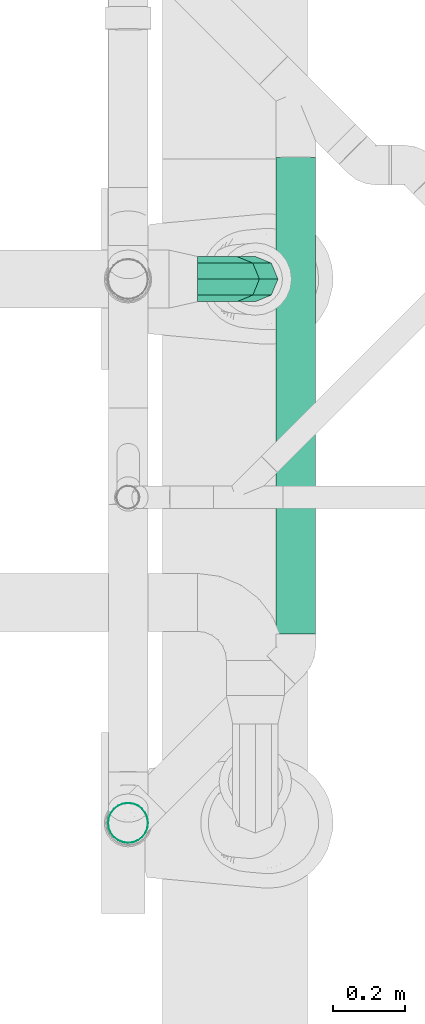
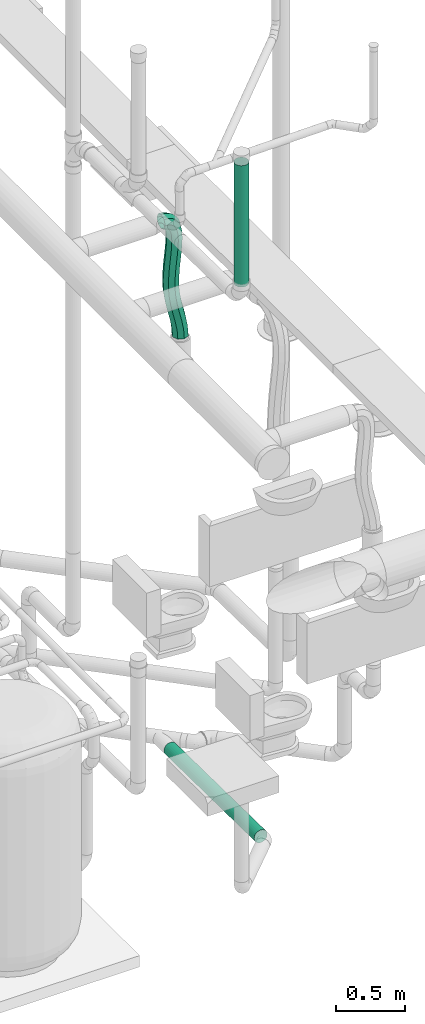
# One storey, part 218 of 374: 3 flow segments.
"""IFC2X3 building model written with IfcOpenShell, lengths in metres."""

from ifc_helpers import new_model, si_unit, direction, origin, place, context, subcontext, project, spatial, open_shell, surface_model, source, transform, mapped, element, save


model = new_model("IFC2X3")

# Units and contexts
model_context = context("Model", 3, precision=1e-05, world=origin(), true_north=direction((-0.4480736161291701, 0.8939966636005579)))
body_context = subcontext(model_context, "Body", "Model", "MODEL_VIEW")
ifc_project = project(units=[si_unit("LENGTHUNIT", "METRE"), si_unit("AREAUNIT", "SQUARE_METRE"), si_unit("VOLUMEUNIT", "CUBIC_METRE"), si_unit("PLANEANGLEUNIT", "RADIAN"), si_unit("THERMODYNAMICTEMPERATUREUNIT", "KELVIN"), si_unit("MASSUNIT", "GRAM", prefix="KILO"), si_unit("TIMEUNIT", "SECOND")], contexts=[model_context])

# Site, building, storey
site_placement = place(None, origin())
site = spatial("IfcSite", under=ifc_project, at=site_placement, Name="Site 1", CompositionType="ELEMENT")
building_placement = place(site_placement, origin())
building = spatial("IfcBuilding", under=site, at=building_placement, Name="Undefined", CompositionType="ELEMENT")
storey_placement = place(building_placement, origin())
storey = spatial("IfcBuildingStorey", under=building, at=storey_placement, Name="Rez de chauss\x8ee", CompositionType="ELEMENT", Elevation=0.0)

# Flow segments
shared_shape_1 = source(origin(), body_context, "Body", "SurfaceModel", [
    surface_model("IfcFaceBasedSurfaceModel", [(8.99929782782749e-06, 0.014357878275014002, 0.0), (0.0, 0.0, 0.0), (1.3164824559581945, -3.552713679e-15, 0.0), (1.3164914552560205, 0.01435787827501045, -7.105427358e-15), (-8.386010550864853e-06, -0.013868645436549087, -0.003716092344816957), (1.3164740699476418, -0.013868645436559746, -0.003716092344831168), (-1.5587241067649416e-05, -0.026302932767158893, -0.010895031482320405), (1.316466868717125, -0.026302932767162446, -0.01089503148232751), (-2.111293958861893e-05, -0.036455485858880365, -0.021047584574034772), (1.316461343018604, -0.036455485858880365, -0.021047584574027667), (-2.458653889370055e-05, -0.04363442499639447, -0.03348187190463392), (1.316457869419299, -0.04363442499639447, -0.033481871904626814), (-2.5771318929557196e-05, -0.0473505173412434, -0.047350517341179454), (1.3164566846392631, -0.0473505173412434, -0.047350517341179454), (-2.458653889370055e-05, -0.047350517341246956, -0.06170839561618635), (1.316457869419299, -0.047350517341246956, -0.06170839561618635), (-2.1112939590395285e-05, -0.04363442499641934, -0.07557704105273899), (1.316461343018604, -0.04363442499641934, -0.07557704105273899), (-1.5587241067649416e-05, -0.036455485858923, -0.08801132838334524), (1.316466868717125, -0.036455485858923, -0.08801132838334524), (-8.38601055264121e-06, -0.02630293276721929, -0.09816388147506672), (1.31647406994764, -0.02630293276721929, -0.09816388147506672), (0.0, -0.013868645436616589, -0.10534282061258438), (1.3164824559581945, -0.013868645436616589, -0.10534282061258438), (8.99929782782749e-06, -7.1054273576e-14, -0.10905891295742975), (1.3164914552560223, -7.1054273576e-14, -0.10905891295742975), (1.7998595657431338e-05, 0.0143578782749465, -0.10905891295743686), (1.3165004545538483, 0.014357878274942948, -0.10905891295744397), (2.6384606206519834e-05, 0.028226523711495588, -0.10534282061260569), (1.3165088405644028, 0.028226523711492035, -0.1053428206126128), (3.358583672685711e-05, 0.04066081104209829, -0.09816388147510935), (1.3165160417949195, 0.04066081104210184, -0.09816388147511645), (3.911153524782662e-05, 0.05081336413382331, -0.08801132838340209), (1.3165215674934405, 0.05081336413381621, -0.08801132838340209), (4.2585134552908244e-05, 0.05799230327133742, -0.07557704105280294), (1.3165250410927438, 0.05799230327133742, -0.07557704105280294), (4.3769914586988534e-05, 0.06170839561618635, -0.061708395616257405), (1.3165262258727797, 0.0617083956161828, -0.061708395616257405), (4.2585134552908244e-05, 0.061708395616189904, -0.0473505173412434), (1.3165250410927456, 0.06170839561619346, -0.0473505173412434), (3.9111535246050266e-05, 0.05799230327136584, -0.03348187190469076), (1.3165215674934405, 0.05799230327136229, -0.03348187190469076), (3.358583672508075e-05, 0.050813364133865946, -0.02104758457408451), (1.3165160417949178, 0.050813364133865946, -0.02104758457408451), (2.638460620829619e-05, 0.04066081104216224, -0.010895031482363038), (1.3165088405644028, 0.04066081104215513, -0.010895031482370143), (1.7998595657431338e-05, 0.028226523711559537, -0.0037160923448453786), (1.3165004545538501, 0.028226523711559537, -0.0037160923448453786)], [open_shell([[[0, 1, 2, 3]], [[1, 4, 5, 2]], [[4, 6, 7, 5]], [[6, 8, 9, 7]], [[8, 10, 11, 9]], [[10, 12, 13, 11]], [[12, 14, 15, 13]], [[14, 16, 17, 15]], [[16, 18, 19, 17]], [[18, 20, 21, 19]], [[20, 22, 23, 21]], [[22, 24, 25, 23]], [[24, 26, 27, 25]], [[26, 28, 29, 27]], [[28, 30, 31, 29]], [[30, 32, 33, 31]], [[32, 34, 35, 33]], [[34, 36, 37, 35]], [[36, 38, 39, 37]], [[38, 40, 41, 39]], [[40, 42, 43, 41]], [[42, 44, 45, 43]], [[44, 46, 47, 45]], [[46, 0, 3, 47]]])]),
])
flow_segment_1_placement = place(storey_placement, origin())
element("IfcFlowSegment", 1, at=flow_segment_1_placement, inside=storey, Name="PE-HD tuyau", ObjectType="PE-HD tuyau", context=body_context, shape_type="MappedRepresentation", body=[
    mapped(shared_shape_1, transform((57.581809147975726, 13.148840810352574, -1.1511285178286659), x_axis=(1.6417485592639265e-05, -0.9998919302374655, 0.014701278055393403), y_axis=(0.4661836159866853, -0.01299839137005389, -0.8845924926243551), z_axis=(0.8846879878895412, 0.006868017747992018, 0.46613302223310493))),
])
shared_shape_2 = source(origin(), body_context, "Body", "SurfaceModel", [
    surface_model("IfcFaceBasedSurfaceModel", [(0.05331934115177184, 1.4210854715e-14, 1.33226763e-15), (0.009938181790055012, 0.020156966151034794, 4.4408921e-16), (0.0, 0.0, 0.0), (0.04237763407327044, -0.022189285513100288, -3.278747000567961e-06), (-0.01056842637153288, -0.018914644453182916, -0.0026958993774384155), (0.03054364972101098, -0.04336700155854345, -0.0030240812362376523), (-0.021705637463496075, -0.03630988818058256, -0.008250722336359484), (0.01790478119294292, -0.06310692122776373, -0.009328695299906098), (-0.03321318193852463, -0.05178754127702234, -0.01665985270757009), (0.0047421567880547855, -0.08081154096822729, -0.018946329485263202), (-0.04477130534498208, -0.0649519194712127, -0.027652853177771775), (-0.00849154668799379, -0.0958869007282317, -0.03153026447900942), (-0.05605435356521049, -0.07560020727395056, -0.0407402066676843), (-0.021335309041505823, -0.10801179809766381, -0.04642395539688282), (-0.06684608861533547, -0.08379456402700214, -0.05538634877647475), (-0.0334828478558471, -0.1172397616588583, -0.06290573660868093), (-0.07707368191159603, -0.0897859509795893, -0.07116487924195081), (-0.044830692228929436, -0.12389132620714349, -0.08040832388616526), (-0.08676916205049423, -0.09389057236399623, -0.08780708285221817), (-0.05542366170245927, -0.12837929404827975, -0.09858743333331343), (-0.0960134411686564, -0.09640583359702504, -0.10517039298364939), (-0.06537570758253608, -0.1310898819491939, -0.11727718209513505), (-0.10489687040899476, -0.09757927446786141, -0.12318605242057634), (-0.07481412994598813, -0.13233878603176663, -0.13641606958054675), (-0.11350038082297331, -0.09760865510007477, -0.1418181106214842), (-0.08385290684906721, -0.13237130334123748, -0.1559889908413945), (-0.12188978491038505, -0.0966528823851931, -0.16103937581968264), (-0.0925846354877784, -0.1313777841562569, -0.17599322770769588), (-0.13011617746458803, -0.09484367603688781, -0.18081980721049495), (-0.10108109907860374, -0.12951013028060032, -0.19642203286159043), (-0.13835727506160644, -0.09224345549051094, -0.20147816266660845), (-0.10959315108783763, -0.12682223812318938, -0.21776193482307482), (-0.15150685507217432, -0.08668400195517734, -0.23594945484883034), (-0.12293890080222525, -0.12117873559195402, -0.25274866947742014), (-0.1646400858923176, -0.07972511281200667, -0.2718820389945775), (-0.13624353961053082, -0.11413043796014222, -0.2891487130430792), (-0.17768912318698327, -0.0718106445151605, -0.30865401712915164), (-0.14940891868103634, -0.10614589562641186, -0.3262480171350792), (-0.1970231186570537, -0.059103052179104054, -0.36418632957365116), (-0.16877551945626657, -0.09341720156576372, -0.38187362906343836), (-0.21605777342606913, -0.046573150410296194, -0.41887923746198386), (-0.18766096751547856, -0.08097862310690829, -0.43614519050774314), (-0.2543328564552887, -0.02644082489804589, -0.5234412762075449), (-0.2255196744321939, -0.06103781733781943, -0.539599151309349), (-0.2923463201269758, -0.01889534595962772, -0.6139735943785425), (-0.2627413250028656, -0.05365534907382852, -0.6282394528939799), (-0.33065025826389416, -0.02126881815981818, -0.6945272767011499), (-0.3003143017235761, -0.05600314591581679, -0.7072349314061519), (-0.36935920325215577, -0.029114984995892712, -0.77010624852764), (-0.33866159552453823, -0.06378658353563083, -0.7820964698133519), (-0.40821002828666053, -0.03793825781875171, -0.8449479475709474), (-0.3776721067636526, -0.072641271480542, -0.857250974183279), (-0.4465613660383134, -0.04277954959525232, -0.9229650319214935), (-0.416699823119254, -0.07754733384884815, -0.9366660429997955), (-0.48315414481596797, -0.03827099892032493, -1.0071673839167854), (-0.45422516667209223, -0.07290680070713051, -1.0230325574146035), (-0.021531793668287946, 0.032699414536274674, -0.03377211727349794), (-0.029047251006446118, 0.017448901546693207, -0.03376420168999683), (-0.03656035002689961, 0.003997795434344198, -0.035675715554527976), (-0.04407223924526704, -0.007736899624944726, -0.039420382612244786), (-0.05158406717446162, -0.017838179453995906, -0.04491192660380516), (-0.05909698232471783, -0.02638903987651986, -0.052064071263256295), (-0.06661213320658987, -0.033472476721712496, -0.06079054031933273), (-0.07413066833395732, -0.03917148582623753, -0.07100505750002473), (-0.08165373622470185, -0.043569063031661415, -0.08262134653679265), (-0.08918248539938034, -0.04674820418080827, -0.09555313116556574), (-0.09671806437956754, -0.04879190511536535, -0.10971413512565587), (-0.10426162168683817, -0.049783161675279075, -0.1250180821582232), (-0.11181430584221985, -0.04980496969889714, -0.1413786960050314), (-0.11937726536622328, -0.04894032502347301, -0.1587097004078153), (-0.12695164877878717, -0.04727222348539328, -0.17692481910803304), (-0.13453860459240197, -0.044883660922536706, -0.19593777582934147), (-0.14721458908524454, -0.03952711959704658, -0.22916467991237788), (-0.15993400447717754, -0.032784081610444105, -0.26396871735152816), (-0.17270216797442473, -0.025038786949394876, -0.2999504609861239), (-0.19195744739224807, -0.012382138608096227, -0.35525752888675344), (-0.2113523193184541, 0.0003682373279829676, -0.410967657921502), (-0.25063262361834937, 0.02096293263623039, -0.5182048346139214), (-0.29055769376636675, 0.028901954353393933, -0.6133048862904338), (-0.33062632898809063, 0.026466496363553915, -0.6976204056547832), (-0.37020837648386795, 0.018468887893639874, -0.7749314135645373), (-0.4086736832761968, 0.009721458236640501, -0.8490179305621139), (-0.44539209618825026, 0.005036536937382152, -0.9236599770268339), (-0.47973346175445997, 0.009226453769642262, -1.0026375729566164), (-0.022655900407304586, 0.030280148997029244, -0.08153310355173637), (-0.027748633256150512, 0.019936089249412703, -0.08151727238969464), (-0.0322064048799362, 0.011948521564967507, -0.08264440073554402), (-0.03609297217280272, 0.005874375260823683, -0.0845789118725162), (-0.03960908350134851, 0.0011494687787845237, -0.08715286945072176), (-0.04307679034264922, -0.00278787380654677, -0.09046415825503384), (-0.046824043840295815, -0.006306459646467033, -0.0948297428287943), (-0.05106937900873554, -0.00951012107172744, -0.10061263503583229), (-0.055887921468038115, -0.012313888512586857, -0.1080666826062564), (-0.061249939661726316, -0.014567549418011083, -0.11728804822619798), (-0.06707681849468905, -0.016139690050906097, -0.12824674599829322), (-0.07328050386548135, -0.016948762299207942, -0.14083898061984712), (-0.07978236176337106, -0.01696299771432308, -0.15492815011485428), (-0.08651887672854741, -0.016189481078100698, -0.1703688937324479), (-0.0934412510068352, -0.01466248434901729, -0.18701869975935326), (-0.10037406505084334, -0.012485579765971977, -0.20438625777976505), (-0.11257645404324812, -0.007331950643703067, -0.2363687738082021), (-0.12488205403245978, -0.0008047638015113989, -0.27004426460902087), (-0.1373693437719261, 0.006771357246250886, -0.30523577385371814), (-0.15654590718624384, 0.019377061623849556, -0.36031759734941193), (-0.17630099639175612, 0.03234791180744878, -0.4170449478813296), (-0.21658652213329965, 0.053404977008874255, -0.5269572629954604), (-0.2584231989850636, 0.06173754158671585, -0.62662504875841), (-0.3002565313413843, 0.05924009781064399, -0.714702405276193), (-0.34071168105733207, 0.0510910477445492, -0.79374544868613), (-0.3787914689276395, 0.04241946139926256, -0.8670767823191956), (-0.4138769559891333, 0.037890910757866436, -0.9383437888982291), (-0.44596690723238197, 0.04176219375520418, -1.01209662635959), (0.00722434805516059, 0.014316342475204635, -0.11530522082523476), (0.003135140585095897, 0.006004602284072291, -0.11528611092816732), (-5.70729479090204e-05, 0.00028010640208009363, -0.11608833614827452), (-0.002441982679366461, -0.0034493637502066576, -0.11727305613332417), (-0.004303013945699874, -0.00594730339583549, -0.11863850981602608), (-0.006095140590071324, -0.007973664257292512, -0.12035886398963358), (-0.00828167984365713, -0.010015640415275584, -0.12291811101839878), (-0.011171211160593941, -0.012185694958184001, -0.1268653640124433), (-0.014869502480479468, -0.014329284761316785, -0.13259535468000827), (-0.019334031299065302, -0.016199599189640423, -0.14027981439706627), (-0.024453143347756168, -0.017576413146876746, -0.14991207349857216), (-0.030101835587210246, -0.018310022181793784, -0.16138108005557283), (-0.03616842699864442, -0.01832112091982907, -0.174529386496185), (-0.04256261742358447, -0.01758535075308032, -0.1891871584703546), (-0.04921492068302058, -0.01611680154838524, -0.20518859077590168), (-0.055876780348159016, -0.014027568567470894, -0.22187460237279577), (-0.06788299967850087, -0.008957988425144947, -0.2533416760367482), (-0.08001719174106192, -0.0025202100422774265, -0.28654970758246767), (-0.09238813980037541, 0.004985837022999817, -0.3214138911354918), (-0.11153209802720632, 0.017570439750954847, -0.3764024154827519), (-0.13143639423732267, 0.03063261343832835, -0.4335511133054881), (-0.17213829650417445, 0.051881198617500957, -0.5445715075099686), (-0.2147667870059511, 0.06037677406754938, -0.6461313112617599), (-0.25733108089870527, 0.057853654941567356, -0.7357668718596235), (-0.2981478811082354, 0.04964187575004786, -0.8155273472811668), (-0.33606798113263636, 0.04100170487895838, -0.888545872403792), (-0.37047708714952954, 0.03653792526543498, -0.9584148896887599), (-0.40163447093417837, 0.04027722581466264, -1.030003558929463), (0.050605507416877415, -0.005840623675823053, -0.11530522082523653), (0.04551277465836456, -0.016184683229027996, -0.11528938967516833), (0.041055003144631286, -0.02417225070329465, -0.11641651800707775), (0.03716843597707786, -0.03024639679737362, -0.11835102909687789), (0.03365232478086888, -0.03497130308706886, -0.12092498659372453), (0.03018461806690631, -0.03890864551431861, -0.12423627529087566), (0.026437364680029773, -0.04242723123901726, -0.1286018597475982), (0.022192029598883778, -0.045630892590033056, -0.13438475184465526), (0.017373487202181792, -0.04843465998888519, -0.14183879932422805), (0.012011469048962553, -0.05068832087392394, -0.15106016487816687), (0.00618459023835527, -0.052260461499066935, -0.16201886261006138), (-1.9095124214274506e-05, -0.05306953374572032, -0.17461109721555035), (-0.0065209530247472, -0.053083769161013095, -0.18870026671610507), (-0.013257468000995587, -0.052310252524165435, -0.20414101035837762), (-0.020179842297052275, -0.050783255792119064, -0.2207908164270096), (-0.027112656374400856, -0.04860635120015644, -0.2381583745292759), (-0.039315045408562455, -0.04345272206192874, -0.27014089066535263), (-0.051620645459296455, -0.03692553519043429, -0.3038163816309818), (-0.06410793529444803, -0.02934941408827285, -0.33900789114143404), (-0.08328449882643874, -0.01674370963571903, -0.3940897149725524), (-0.10303958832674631, -0.0037728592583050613, -0.4508170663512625), (-0.1433251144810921, 0.017284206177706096, -0.5607293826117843), (-0.18516179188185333, 0.025616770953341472, -0.6603971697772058), (-0.22699512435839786, 0.023119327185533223, -0.7484745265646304), (-0.26745027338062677, 0.014970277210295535, -0.8275175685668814), (-0.305530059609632, 0.006298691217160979, -0.9008488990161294), (-0.3406155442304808, 0.0017701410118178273, -0.9721159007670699), (-0.3727054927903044, 0.005641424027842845, -1.045868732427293), (0.0820754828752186, -0.018383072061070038, -0.08153310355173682), (0.0745600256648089, -0.0336335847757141, -0.08152518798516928), (0.06704692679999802, -0.047084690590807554, -0.08343670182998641), (0.0595350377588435, -0.05881938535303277, -0.08718136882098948), (0.052023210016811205, -0.06892066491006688, -0.09267291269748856), (0.04451029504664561, -0.07747152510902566, -0.09982505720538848), (0.036995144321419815, -0.08455496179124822, -0.10855152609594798), (0.029476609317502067, -0.09025397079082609, -0.1187660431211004), (0.02195354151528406, -0.09465154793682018, -0.13038233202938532), (0.014424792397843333, -0.09783068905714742, -0.14331411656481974), (0.006889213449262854, -0.09987438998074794, -0.15747512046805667), (-0.000654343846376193, -0.10086564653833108, -0.17277906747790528), (-0.00820702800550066, -0.10088745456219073, -0.18913968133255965), (-0.015769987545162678, -0.10002280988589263, -0.2064706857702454), (-0.023344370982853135, -0.09835470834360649, -0.22468580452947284), (-0.030931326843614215, -0.09596614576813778, -0.243698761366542), (-0.04360731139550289, -0.09060960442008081, -0.2769256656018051), (-0.05632672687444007, -0.08386656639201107, -0.31172970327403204), (-0.06909489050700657, -0.07612127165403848, -0.3477114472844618), (-0.08835017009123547, -0.06346462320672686, -0.40301851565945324), (-0.10774504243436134, -0.05071424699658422, -0.4587286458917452), (-0.14702534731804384, -0.03011955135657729, -0.5659658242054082), (-0.1869504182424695, -0.022180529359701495, -0.6610658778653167), (-0.22701905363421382, -0.024615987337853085, -0.7453813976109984), (-0.266601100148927, -0.03261359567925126, -0.8226924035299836), (-0.3050664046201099, -0.04136102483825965, -0.8967789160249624), (-0.34178481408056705, -0.046045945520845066, -0.9714209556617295), (-0.37612617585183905, -0.04185602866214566, -1.0503985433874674), (0.08319958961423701, -0.015963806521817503, -0.03377211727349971), (0.0732614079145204, -0.03612077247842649, -0.03377211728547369), (0.06269298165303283, -0.05503541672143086, -0.03646801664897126), (0.05155577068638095, -0.07243066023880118, -0.04202283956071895), (0.04004822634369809, -0.08790831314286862, -0.05043196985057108), (0.028490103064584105, -0.10107269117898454, -0.061424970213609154), (0.017207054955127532, -0.11172097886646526, -0.07451232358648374), (0.006415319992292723, -0.11991533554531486, -0.08915846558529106), (-0.0038122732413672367, -0.12590672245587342, -0.1049369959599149), (-0.013507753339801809, -0.1300113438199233, -0.1215791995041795), (-0.02275203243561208, -0.1325266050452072, -0.13894250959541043), (-0.03163546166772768, -0.13370004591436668, -0.15695816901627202), (-0.04023897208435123, -0.1337294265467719, -0.175590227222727), (-0.048628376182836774, -0.13277365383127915, -0.19481149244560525), (-0.05685476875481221, -0.1309644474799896, -0.21459192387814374), (-0.06509586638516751, -0.1283642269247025, -0.23525027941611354), (-0.07824544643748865, -0.12280477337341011, -0.26972157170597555), (-0.09137867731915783, -0.11584588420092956, -0.3056541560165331), (-0.10442771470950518, -0.10793141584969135, -0.3424261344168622), (-0.12376171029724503, -0.09522382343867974, -0.3979584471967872), (-0.14279636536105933, -0.08269392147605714, -0.4526513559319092), (-0.1810714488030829, -0.06256159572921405, -0.5572133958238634), (-0.2190849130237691, -0.05501611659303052, -0.6477457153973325), (-0.2573888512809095, -0.05738958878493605, -0.7282993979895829), (-0.29609779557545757, -0.06523575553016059, -0.8038783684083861), (-0.33494861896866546, -0.0740590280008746, -0.8787200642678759), (-0.3732999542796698, -0.07890031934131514, -0.9567371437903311), (-0.4098927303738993, -0.07439176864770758, -1.0409394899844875)], [open_shell([[[0, 1, 2]], [[2, 3, 0]], [[3, 2, 4]], [[4, 5, 3]], [[5, 4, 6]], [[6, 7, 5]], [[7, 6, 8]], [[8, 9, 7]], [[9, 8, 10]], [[10, 11, 9]], [[11, 10, 12]], [[12, 13, 11]], [[13, 12, 14]], [[14, 15, 13]], [[15, 14, 16]], [[16, 17, 15]], [[17, 16, 18]], [[18, 19, 17]], [[19, 18, 20]], [[20, 21, 19]], [[21, 20, 22]], [[22, 23, 21]], [[23, 22, 24]], [[24, 25, 23]], [[25, 24, 26]], [[26, 27, 25]], [[27, 26, 28]], [[28, 29, 27]], [[29, 28, 30]], [[30, 31, 29]], [[31, 30, 32]], [[32, 33, 31]], [[33, 32, 34]], [[34, 35, 33]], [[35, 34, 36]], [[36, 37, 35]], [[37, 36, 38]], [[38, 39, 37]], [[39, 38, 40]], [[40, 41, 39]], [[41, 40, 42]], [[42, 43, 41]], [[43, 42, 44]], [[44, 45, 43]], [[45, 44, 46]], [[46, 47, 45]], [[47, 46, 48]], [[48, 49, 47]], [[49, 48, 50]], [[50, 51, 49]], [[51, 50, 52]], [[52, 53, 51]], [[53, 52, 54]], [[54, 55, 53]], [[1, 56, 57]], [[57, 2, 1]], [[2, 57, 58]], [[58, 4, 2]], [[4, 58, 59]], [[59, 6, 4]], [[6, 59, 60]], [[60, 8, 6]], [[8, 60, 61]], [[61, 10, 8]], [[10, 61, 62]], [[62, 12, 10]], [[12, 62, 63]], [[63, 14, 12]], [[14, 63, 64]], [[64, 16, 14]], [[16, 64, 65]], [[65, 18, 16]], [[18, 65, 66]], [[66, 20, 18]], [[20, 66, 67]], [[67, 22, 20]], [[22, 67, 68]], [[68, 24, 22]], [[24, 68, 69]], [[69, 26, 24]], [[26, 69, 70]], [[70, 28, 26]], [[28, 70, 71]], [[71, 30, 28]], [[30, 71, 72]], [[72, 32, 30]], [[32, 72, 73]], [[73, 34, 32]], [[34, 73, 74]], [[74, 36, 34]], [[36, 74, 75]], [[75, 38, 36]], [[38, 75, 76]], [[76, 40, 38]], [[40, 76, 77]], [[77, 42, 40]], [[42, 77, 78]], [[78, 44, 42]], [[44, 78, 79]], [[79, 46, 44]], [[46, 79, 80]], [[80, 48, 46]], [[48, 80, 81]], [[81, 50, 48]], [[50, 81, 82]], [[82, 52, 50]], [[52, 82, 83]], [[83, 54, 52]], [[56, 84, 85]], [[85, 57, 56]], [[57, 85, 86]], [[86, 58, 57]], [[58, 86, 87]], [[87, 59, 58]], [[59, 87, 88]], [[88, 60, 59]], [[60, 88, 89]], [[89, 61, 60]], [[61, 89, 90]], [[90, 62, 61]], [[62, 90, 91]], [[91, 63, 62]], [[63, 91, 92]], [[92, 64, 63]], [[64, 92, 93]], [[93, 65, 64]], [[65, 93, 94]], [[94, 66, 65]], [[66, 94, 95]], [[95, 67, 66]], [[67, 95, 96]], [[96, 68, 67]], [[68, 96, 97]], [[97, 69, 68]], [[69, 97, 98]], [[98, 70, 69]], [[70, 98, 99]], [[99, 71, 70]], [[71, 99, 100]], [[100, 72, 71]], [[72, 100, 101]], [[101, 73, 72]], [[73, 101, 102]], [[102, 74, 73]], [[74, 102, 103]], [[103, 75, 74]], [[75, 103, 104]], [[104, 76, 75]], [[76, 104, 105]], [[105, 77, 76]], [[77, 105, 106]], [[106, 78, 77]], [[78, 106, 107]], [[107, 79, 78]], [[79, 107, 108]], [[108, 80, 79]], [[80, 108, 109]], [[109, 81, 80]], [[81, 109, 110]], [[110, 82, 81]], [[82, 110, 111]], [[111, 83, 82]], [[84, 112, 113]], [[113, 85, 84]], [[85, 113, 114]], [[114, 86, 85]], [[86, 114, 115]], [[115, 87, 86]], [[87, 115, 116]], [[116, 88, 87]], [[88, 116, 117]], [[117, 89, 88]], [[89, 117, 118]], [[118, 90, 89]], [[90, 118, 119]], [[119, 91, 90]], [[91, 119, 120]], [[120, 92, 91]], [[92, 120, 121]], [[121, 93, 92]], [[93, 121, 122]], [[122, 94, 93]], [[94, 122, 123]], [[123, 95, 94]], [[95, 123, 124]], [[124, 96, 95]], [[96, 124, 125]], [[125, 97, 96]], [[97, 125, 126]], [[126, 98, 97]], [[98, 126, 127]], [[127, 99, 98]], [[99, 127, 128]], [[128, 100, 99]], [[100, 128, 129]], [[129, 101, 100]], [[101, 129, 130]], [[130, 102, 101]], [[102, 130, 131]], [[131, 103, 102]], [[103, 131, 132]], [[132, 104, 103]], [[104, 132, 133]], [[133, 105, 104]], [[105, 133, 134]], [[134, 106, 105]], [[106, 134, 135]], [[135, 107, 106]], [[107, 135, 136]], [[136, 108, 107]], [[108, 136, 137]], [[137, 109, 108]], [[109, 137, 138]], [[138, 110, 109]], [[110, 138, 139]], [[139, 111, 110]], [[112, 140, 141]], [[141, 113, 112]], [[113, 141, 142]], [[142, 114, 113]], [[114, 142, 143]], [[143, 115, 114]], [[115, 143, 144]], [[144, 116, 115]], [[116, 144, 145]], [[145, 117, 116]], [[117, 145, 146]], [[146, 118, 117]], [[118, 146, 147]], [[147, 119, 118]], [[119, 147, 148]], [[148, 120, 119]], [[120, 148, 149]], [[149, 121, 120]], [[121, 149, 150]], [[150, 122, 121]], [[122, 150, 151]], [[151, 123, 122]], [[123, 151, 152]], [[152, 124, 123]], [[124, 152, 153]], [[153, 125, 124]], [[125, 153, 154]], [[154, 126, 125]], [[126, 154, 155]], [[155, 127, 126]], [[127, 155, 156]], [[156, 128, 127]], [[128, 156, 157]], [[157, 129, 128]], [[129, 157, 158]], [[158, 130, 129]], [[130, 158, 159]], [[159, 131, 130]], [[131, 159, 160]], [[160, 132, 131]], [[132, 160, 161]], [[161, 133, 132]], [[133, 161, 162]], [[162, 134, 133]], [[134, 162, 163]], [[163, 135, 134]], [[135, 163, 164]], [[164, 136, 135]], [[136, 164, 165]], [[165, 137, 136]], [[137, 165, 166]], [[166, 138, 137]], [[138, 166, 167]], [[167, 139, 138]], [[140, 168, 169]], [[169, 141, 140]], [[141, 169, 170]], [[170, 142, 141]], [[142, 170, 171]], [[171, 143, 142]], [[143, 171, 172]], [[172, 144, 143]], [[144, 172, 173]], [[173, 145, 144]], [[145, 173, 174]], [[174, 146, 145]], [[146, 174, 175]], [[175, 147, 146]], [[147, 175, 176]], [[176, 148, 147]], [[148, 176, 177]], [[177, 149, 148]], [[149, 177, 178]], [[178, 150, 149]], [[150, 178, 179]], [[179, 151, 150]], [[151, 179, 180]], [[180, 152, 151]], [[152, 180, 181]], [[181, 153, 152]], [[153, 181, 182]], [[182, 154, 153]], [[154, 182, 183]], [[183, 155, 154]], [[155, 183, 184]], [[184, 156, 155]], [[156, 184, 185]], [[185, 157, 156]], [[157, 185, 186]], [[186, 158, 157]], [[158, 186, 187]], [[187, 159, 158]], [[159, 187, 188]], [[188, 160, 159]], [[160, 188, 189]], [[189, 161, 160]], [[161, 189, 190]], [[190, 162, 161]], [[162, 190, 191]], [[191, 163, 162]], [[163, 191, 192]], [[192, 164, 163]], [[164, 192, 193]], [[193, 165, 164]], [[165, 193, 194]], [[194, 166, 165]], [[166, 194, 195]], [[195, 167, 166]], [[168, 196, 197]], [[197, 169, 168]], [[169, 197, 198]], [[198, 170, 169]], [[170, 198, 199]], [[199, 171, 170]], [[171, 199, 200]], [[200, 172, 171]], [[172, 200, 201]], [[201, 173, 172]], [[173, 201, 202]], [[202, 174, 173]], [[174, 202, 203]], [[203, 175, 174]], [[175, 203, 204]], [[204, 176, 175]], [[176, 204, 205]], [[205, 177, 176]], [[177, 205, 206]], [[206, 178, 177]], [[178, 206, 207]], [[207, 179, 178]], [[179, 207, 208]], [[208, 180, 179]], [[180, 208, 209]], [[209, 181, 180]], [[181, 209, 210]], [[210, 182, 181]], [[182, 210, 211]], [[211, 183, 182]], [[183, 211, 212]], [[212, 184, 183]], [[184, 212, 213]], [[213, 185, 184]], [[185, 213, 214]], [[214, 186, 185]], [[186, 214, 215]], [[215, 187, 186]], [[187, 215, 216]], [[216, 188, 187]], [[188, 216, 217]], [[217, 189, 188]], [[189, 217, 218]], [[218, 190, 189]], [[190, 218, 219]], [[219, 191, 190]], [[191, 219, 220]], [[220, 192, 191]], [[192, 220, 221]], [[221, 193, 192]], [[193, 221, 222]], [[222, 194, 193]], [[194, 222, 223]], [[223, 195, 194]], [[196, 0, 3]], [[3, 197, 196]], [[197, 3, 5]], [[5, 198, 197]], [[198, 5, 7]], [[7, 199, 198]], [[199, 7, 9]], [[9, 200, 199]], [[200, 9, 11]], [[11, 201, 200]], [[201, 11, 13]], [[13, 202, 201]], [[202, 13, 15]], [[15, 203, 202]], [[203, 15, 17]], [[17, 204, 203]], [[204, 17, 19]], [[19, 205, 204]], [[205, 19, 21]], [[21, 206, 205]], [[206, 21, 23]], [[23, 207, 206]], [[207, 23, 25]], [[25, 208, 207]], [[208, 25, 27]], [[27, 209, 208]], [[209, 27, 29]], [[29, 210, 209]], [[210, 29, 31]], [[31, 211, 210]], [[211, 31, 33]], [[33, 212, 211]], [[212, 33, 35]], [[35, 213, 212]], [[213, 35, 37]], [[37, 214, 213]], [[214, 37, 39]], [[39, 215, 214]], [[215, 39, 41]], [[41, 216, 215]], [[216, 41, 43]], [[43, 217, 216]], [[217, 43, 45]], [[45, 218, 217]], [[218, 45, 47]], [[47, 219, 218]], [[219, 47, 49]], [[49, 220, 219]], [[220, 49, 51]], [[51, 221, 220]], [[221, 51, 53]], [[53, 222, 221]], [[222, 53, 55]], [[55, 223, 222]]])]),
])
flow_segment_2_placement = place(storey_placement, origin())
element("IfcFlowSegment", 2, at=flow_segment_2_placement, inside=storey, Name="Tube flexible", ObjectType="Tube flexible", context=body_context, shape_type="MappedRepresentation", body=[
    mapped(shared_shape_2, transform((57.2874328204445, 12.76830588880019, 3.8428379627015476), x_axis=(-0.42072576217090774, 0.8288582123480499, 0.36875994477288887), y_axis=(-0.905472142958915, -0.40865989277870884, -0.1145307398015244), z_axis=(0.055767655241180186, -0.382087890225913, 0.9224417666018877))),
])
shared_shape_3 = source(origin(), body_context, "Body", "SurfaceModel", [
    surface_model("IfcFaceBasedSurfaceModel", [(0.0, 0.014357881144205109, -3.552713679e-15), (0.0, 0.0, 0.0), (1.0787452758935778, -1.776356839e-15, 0.0), (1.0787452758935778, 0.014357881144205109, 0.0), (0.0, -0.01386864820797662, -0.0037160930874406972), (1.0787452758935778, -0.01386864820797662, -0.0037160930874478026), (0.0, -0.026302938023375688, -0.010895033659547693), (1.0787452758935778, -0.026302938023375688, -0.01089503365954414), (0.0, -0.03645549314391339, -0.021047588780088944), (1.0787452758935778, -0.0364554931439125, -0.021047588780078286), (0.0, -0.04363443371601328, -0.033481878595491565), (1.0787452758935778, -0.04363443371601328, -0.03348187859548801), (0.0, -0.04735052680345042, -0.04735052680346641), (1.0787452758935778, -0.04735052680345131, -0.047350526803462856), (0.0, -0.04735052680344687, -0.06170840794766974), (1.0787452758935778, -0.04735052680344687, -0.061708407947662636), (0.0, -0.04363443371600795, -0.07557705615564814), (1.0787452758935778, -0.04363443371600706, -0.07557705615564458), (0.0, -0.03645549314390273, -0.08801134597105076), (1.0787452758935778, -0.03645549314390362, -0.0880113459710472), (0.0, -0.026302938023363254, -0.0981639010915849), (1.0787452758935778, -0.026302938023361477, -0.09816390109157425), (0.0, -0.013868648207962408, -0.1053428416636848), (1.0787452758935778, -0.013868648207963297, -0.10534284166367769), (0.0, 1.5987211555e-14, -0.10905893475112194), (1.0787452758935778, 1.5099033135e-14, -0.10905893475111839), (0.0, 0.014357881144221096, -0.10905893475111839), (1.0787452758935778, 0.014357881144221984, -0.10905893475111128), (0.0, 0.028226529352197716, -0.10534284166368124), (1.0787452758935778, 0.028226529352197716, -0.10534284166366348), (0.0, 0.040660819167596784, -0.0981639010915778), (1.0787452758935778, 0.04066081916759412, -0.09816390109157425), (0.0, 0.05081337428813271, -0.08801134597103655), (1.0787452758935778, 0.050813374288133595, -0.088011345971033), (0.0, 0.05799231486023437, -0.07557705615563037), (1.0787452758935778, 0.05799231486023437, -0.07557705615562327), (0.0, 0.06170840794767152, -0.06170840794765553), (1.0787452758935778, 0.06170840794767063, -0.06170840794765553), (0.0, 0.061708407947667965, -0.0473505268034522), (1.0787452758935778, 0.061708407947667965, -0.047350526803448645), (0.0, 0.05799231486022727, -0.033481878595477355), (1.0787452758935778, 0.057992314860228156, -0.033481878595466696), (0.0, 0.050813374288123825, -0.021047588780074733), (1.0787452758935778, 0.05081337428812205, -0.02104758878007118), (0.0, 0.04066081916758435, -0.010895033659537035), (1.0787452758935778, 0.040660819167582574, -0.010895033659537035), (0.0, 0.028226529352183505, -0.0037160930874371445), (1.0787452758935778, 0.028226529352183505, -0.003716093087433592)], [open_shell([[[0, 1, 2, 3]], [[1, 4, 5, 2]], [[4, 6, 7, 5]], [[6, 8, 9, 7]], [[8, 10, 11, 9]], [[10, 12, 13, 11]], [[12, 14, 15, 13]], [[14, 16, 17, 15]], [[16, 18, 19, 17]], [[18, 20, 21, 19]], [[20, 22, 23, 21]], [[22, 24, 25, 23]], [[24, 26, 27, 25]], [[26, 28, 29, 27]], [[28, 30, 31, 29]], [[30, 32, 33, 31]], [[32, 34, 35, 33]], [[34, 36, 37, 35]], [[36, 38, 39, 37]], [[38, 40, 41, 39]], [[40, 42, 43, 41]], [[42, 44, 45, 43]], [[44, 46, 47, 45]], [[46, 0, 3, 47]]])]),
])
flow_segment_3_placement = place(storey_placement, origin())
element("IfcFlowSegment", 3, at=flow_segment_3_placement, inside=storey, Name="PE-HD tuyau", ObjectType="PE-HD tuyau", context=body_context, shape_type="MappedRepresentation", body=[
    mapped(shared_shape_3, transform((57.12712592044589, 11.32523504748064, 4.232663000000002), x_axis=(0.0, 0.0, 1.0), y_axis=(0.13052619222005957, -0.9914448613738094, 0.0), z_axis=(0.9914448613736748, 0.13052619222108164, 0.0))),
])

save(model, "model.ifc")
